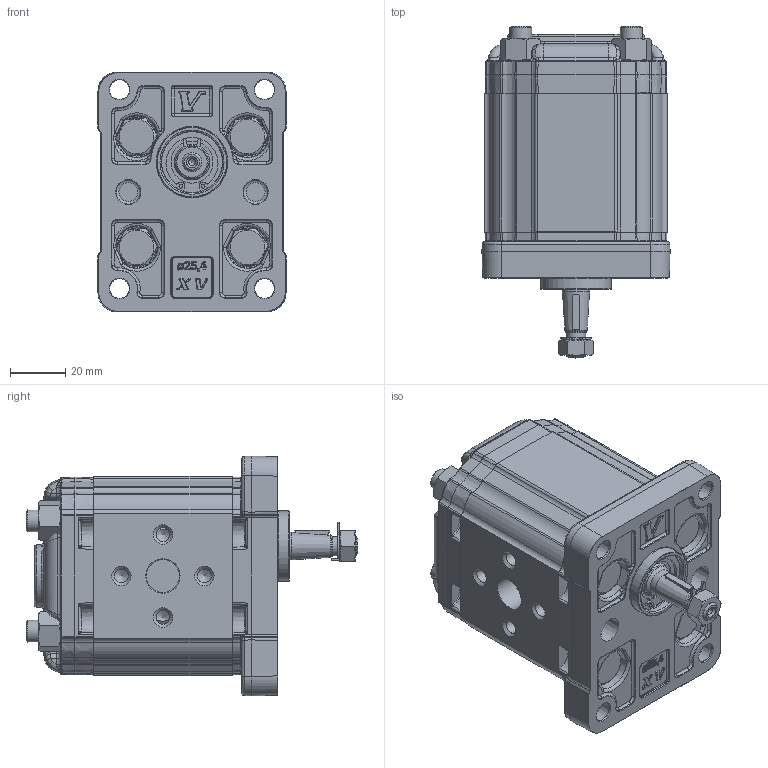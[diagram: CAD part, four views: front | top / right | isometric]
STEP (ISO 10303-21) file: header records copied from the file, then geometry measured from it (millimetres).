
FILE_DESCRIPTION(/* description */ ('Unknown'),/* implementation_level */ '2;1');
FILE_NAME(/* name */ 'X1R2301FIIF',/* time_stamp */ '2026-05-26T18:52:54+02:00',/* author */ ('Unknown'),/* organization */ ('Unknown'),/* preprocessor_version */ 'ST-DEVELOPER v16.7',/* originating_system */ 'Solid Edge',/* authorisation */ 'Unknown');
FILE_SCHEMA (('AUTOMOTIVE_DESIGN {1 0 10303 214 3 1 1}'));
Products named in the file (5): X1R2301FIIF; X1R01; 1F; X1IIH50; XR101-F
Assembly tree (4 placements, depth 2):
  X1R2301FIIF
    X1R01
    1F
    X1IIH50
    XR101-F
Bounding box: 68 x 119.99 x 86.7 mm (x, y, z)
Volume: 351058.7 mm3; surface area: 73900.8 mm2
Topology: 6 solids, 7 shells, 2716 faces, 6443 edges, 3813 vertices
Faces by surface type: cylinder 849, bspline 644, plane 588, torus 307, cone 275, sphere 53
Full cylindrical faces by diameter (mm): 1.447 x2, 2.5 x1, 3.65 x2, 5 x8, 7 x2, 7.15 x4, 7.25 x1, 8 x12, 8.5 x6, 9 x2, 9.92 x1, 10.5 x2, 11.965 x1, 12 x8, 12.923 x1, 15.115 x1, 15.181 x1, 19 x1, 20 x1, 22 x2, 22.2 x1, 23 x1, 25.4 x1
Entity records: 132640 total; most frequent: CARTESIAN_POINT 55355, ORIENTED_EDGE 12232, DIRECTION 11795, EDGE_CURVE 6116, AXIS2_PLACEMENT_3D 4916, VERTEX_POINT 3713, FACE_BOUND 3053, EDGE_LOOP 3043
